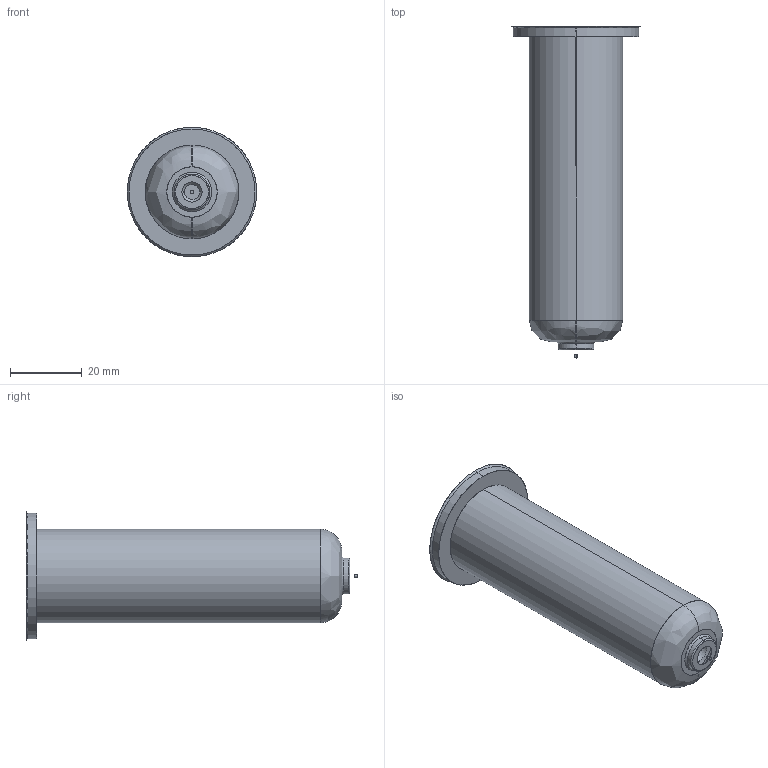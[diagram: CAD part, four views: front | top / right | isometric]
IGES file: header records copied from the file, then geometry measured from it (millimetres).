
Start section: SolidWorks IGES file using analytic representation for surfaces
Global section: file name: C:\Documents and Settings\ws-20\Desktop\TEM\Sede UGER3552-M-A C-89 L-119 Ød-0.7.IGS; native system: SolidWorks 2012; preprocessor: SolidWorks 2012; author: ws-20; date: 120410.083925; units: millimetre
Bounding box: 36 x 92.23 x 36 mm (x, y, z)
Surface area: 9115.1 mm2 (no closed solid volume)
Topology: 0 solids, 0 shells, 23 faces, 380 edges, 380 vertices
Faces by surface type: revolution 14, bspline 9
